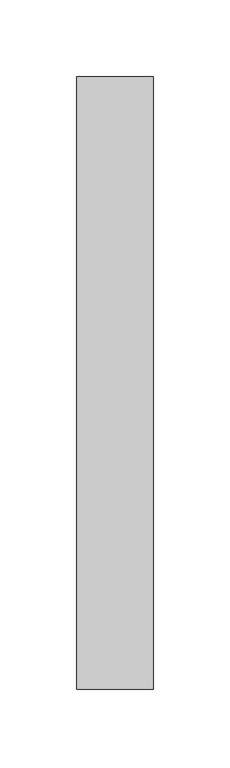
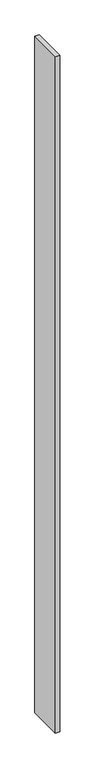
"""IFC4 building model written with IfcOpenShell, lengths in millimetres: proxy geometry, Menneau extrémité façade."""

from ifc_helpers import new_model, si_unit, frame, origin, place, context, project, spatial, polyline, outline, extrude, source, transform, mapped, element, save


def generic_models_5c799557(model_context):
    return source(origin(), model_context, "Body", "SweptSolid", [
        extrude(outline(polyline([(-84244.9988083, -20800.7903364), (-84294.9987767, -20800.7903364), (-84294.9987767, -20400.7903364), (-84244.9988083, -20400.7903364), (-84244.9988083, -20800.7903364)])), frame((0.0, 0.0, 3674.4929124), z_axis=(0.0, 0.0, 1.0), x_axis=(1.0, 0.0, 0.0)), (0.0, 0.0, 1.0), 8090.5070876),
    ])


if __name__ == "__main__":
    model = new_model("IFC4")
    model_context = context("Model", 3, world=origin())
    ifc_project = project(units=[si_unit("LENGTHUNIT", "METRE", prefix="MILLI")], contexts=[model_context])
    site = spatial("IfcSite", under=ifc_project)
    building = spatial("IfcBuilding", under=site)
    placement = place(None, origin())
    generic_models_shape = generic_models_5c799557(model_context)
    element("IfcBuildingElementProxy", 1, Name="Menneau extrémité façade", ObjectType="Menneau extrémité façade", at=placement, inside=building, context=model_context, shape_type="MappedRepresentation", body=[
        mapped(generic_models_shape, transform((0.0, 0.0, 0.0), x_axis=(1.0, 0.0, 0.0), y_axis=(0.0, 1.0, 0.0), z_axis=(0.0, 0.0, 1.0))),
    ])
    save(model, "model.ifc")
